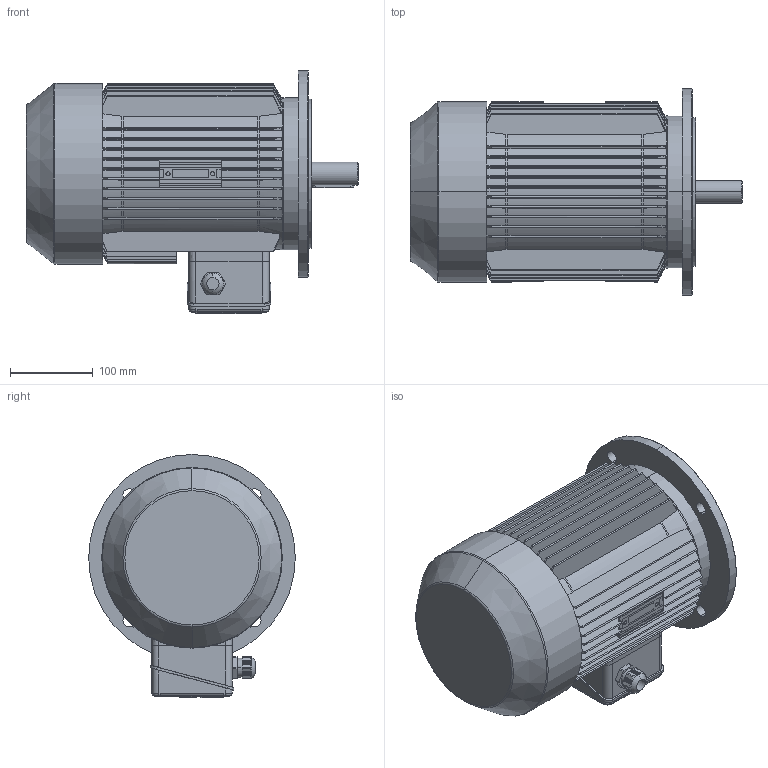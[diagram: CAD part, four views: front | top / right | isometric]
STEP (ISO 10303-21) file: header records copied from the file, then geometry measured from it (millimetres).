
FILE_DESCRIPTION (( 'STEP AP214' ), '1' );
FILE_NAME ('MAP112M4A IM3041 A250 FF215.STEP', '2020-12-23T13:07:21', ( '' ), ( '' ), 'SwSTEP 2.0', 'SolidWorks 2018', '' );
FILE_SCHEMA (( 'AUTOMOTIVE_DESIGN' ));
Length unit declared in the file: millimetre
Products named in the file (1): MAP112M4A IM3041 A250 FF215
Bounding box: 401.5 x 250 x 294 mm (x, y, z)
Volume: 10800376.8 mm3; surface area: 694753.3 mm2
Topology: 3 solids, 8 shells, 1058 faces, 2856 edges, 1844 vertices
Faces by surface type: plane 494, cylinder 226, cone 137, torus 108, bspline 75, sphere 18
Entity records: 39863 total; most frequent: CARTESIAN_POINT 14651, ORIENTED_EDGE 5684, DIRECTION 4657, EDGE_CURVE 2842, VERTEX_POINT 1840, AXIS2_PLACEMENT_3D 1634, LINE 1389, VECTOR 1389
